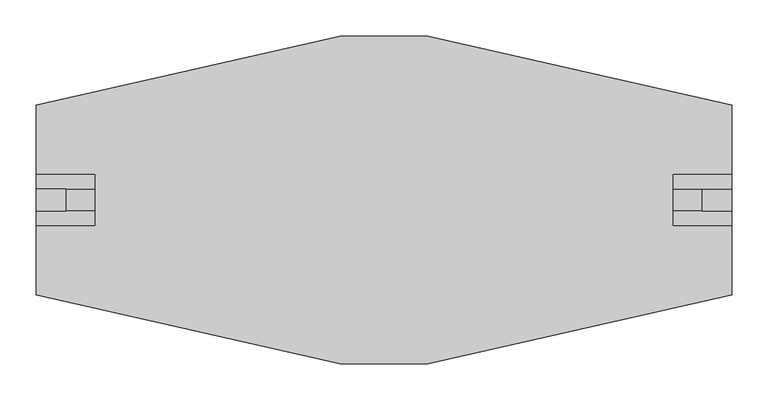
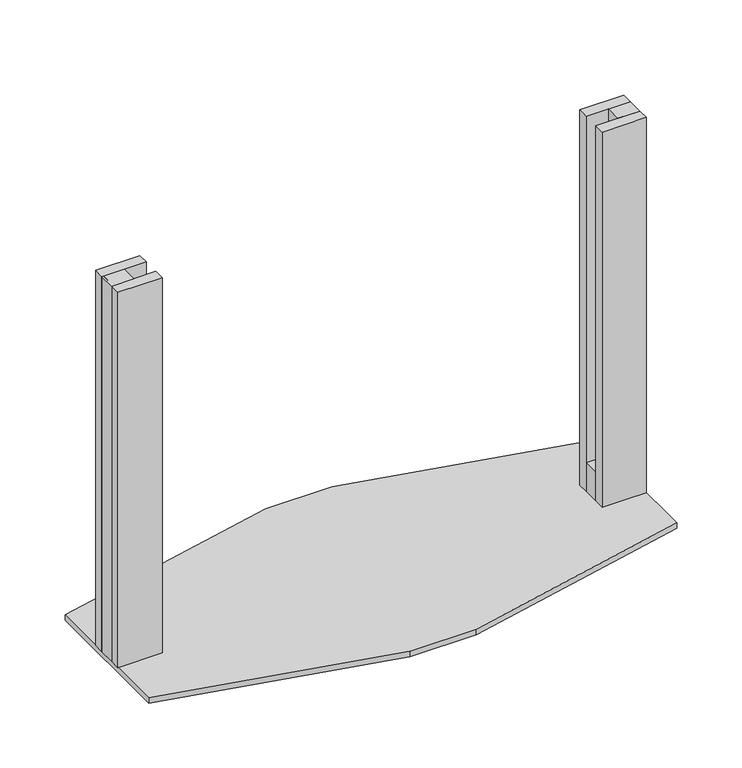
"""IFC4 building model written with IfcOpenShell, lengths in millimetres: proxy geometry, MK-TA24-ZAFE-S01-WD."""

from ifc_helpers import new_model, si_unit, frame, origin, origin_with_axes, place, context, project, spatial, polyline, outline, extrude, source, transform, mapped, element, save


def generic_models_2258bc46(model_context):
    return source(origin(), model_context, "Body", "SweptSolid", [
        extrude(outline(polyline([(935.0, 15.0), (855.0, 15.0), (855.0, 35.0), (935.0, 35.0), (935.0, 15.0)])), origin_with_axes(), (0.0, 0.0, 1.0), 717.0),
        extrude(outline(polyline([(20.0, -15.0), (-20.0, -15.0), (-20.0, 15.0), (20.0, 15.0), (20.0, -15.0)])), origin_with_axes(), (0.0, 0.0, 1.0), 717.0),
        extrude(outline(polyline([(-17.5, -12.5), (-17.5, 12.5), (17.5, 12.5), (17.5, -12.5), (-17.5, -12.5)])), frame((0.0, 0.0, 709.0), z_axis=(0.0, 0.0, 1.0), x_axis=(1.0, 0.0, 0.0)), (0.0, 0.0, 1.0), 8.0),
        extrude(outline(polyline([(935.0, -15.0), (895.0, -15.0), (895.0, 15.0), (935.0, 15.0), (935.0, -15.0)])), origin_with_axes(), (0.0, 0.0, 1.0), 717.0),
        extrude(outline(polyline([(897.5, -12.5), (897.5, 12.5), (932.5, 12.5), (932.5, -12.5), (897.5, -12.5)])), frame((0.0, 0.0, 709.0), z_axis=(0.0, 0.0, 1.0), x_axis=(1.0, 0.0, 0.0)), (0.0, 0.0, 1.0), 8.0),
        extrude(outline(polyline([(935.0, -35.0), (855.0, -35.0), (855.0, -15.0), (935.0, -15.0), (935.0, -35.0)])), origin_with_axes(), (0.0, 0.0, 1.0), 717.0),
        extrude(outline(polyline([(60.0, 15.0), (60.0, -15.0), (20.0, -15.0), (20.0, 15.0), (60.0, 15.0)])), origin_with_axes(), (0.0, 0.0, 1.0), 55.0),
        extrude(outline(polyline([(60.0, 15.0), (-20.0, 15.0), (-20.0, 35.0), (60.0, 35.0), (60.0, 15.0)])), origin_with_axes(), (0.0, 0.0, 1.0), 717.0),
        extrude(outline(polyline([(855.0, -15.0), (855.0, 15.0), (895.0, 15.0), (895.0, -15.0), (855.0, -15.0)])), origin_with_axes(), (0.0, 0.0, 1.0), 55.0),
        extrude(outline(polyline([(60.0, -35.0), (-20.0, -35.0), (-20.0, -15.0), (60.0, -15.0), (60.0, -35.0)])), origin_with_axes(), (0.0, 0.0, 1.0), 717.0),
        extrude(outline(polyline([(-20.0, -130.7258065), (-20.0, 130.7258065), (397.5, 225.0), (517.5, 225.0), (935.0, 130.7258065), (935.0, -130.7258065), (517.5, -225.0), (397.5, -225.0), (-20.0, -130.7258065)])), frame((0.0, 0.0, -10.0), z_axis=(0.0, 0.0, 1.0), x_axis=(1.0, 0.0, 0.0)), (0.0, 0.0, 1.0), 10.0),
    ])


if __name__ == "__main__":
    model = new_model("IFC4")
    model_context = context("Model", 3, world=origin())
    ifc_project = project(units=[si_unit("LENGTHUNIT", "METRE", prefix="MILLI")], contexts=[model_context])
    site = spatial("IfcSite", under=ifc_project)
    building = spatial("IfcBuilding", under=site)
    placement = place(None, origin())
    generic_models_shape = generic_models_2258bc46(model_context)
    element("IfcBuildingElementProxy", 1, Name="MK-TA24-ZAFE-S01-WD", ObjectType="MK-TA24-ZAFE-S01-WD", at=placement, inside=building, context=model_context, shape_type="MappedRepresentation", body=[
        mapped(generic_models_shape, transform((0.0, 0.0, 0.0), x_axis=(1.0, 0.0, 0.0), y_axis=(0.0, 1.0, 0.0), z_axis=(0.0, 0.0, 1.0))),
    ])
    save(model, "model.ifc")
